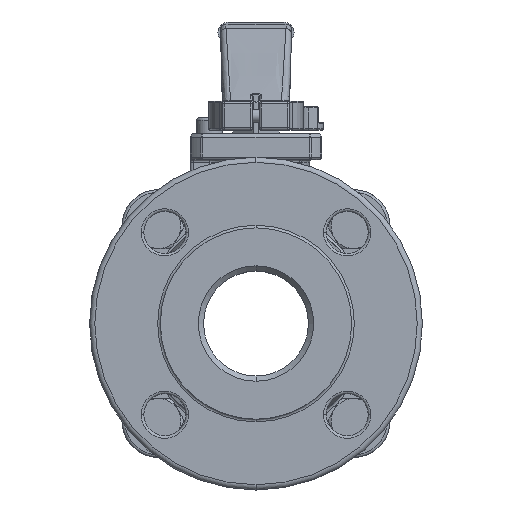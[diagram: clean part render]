
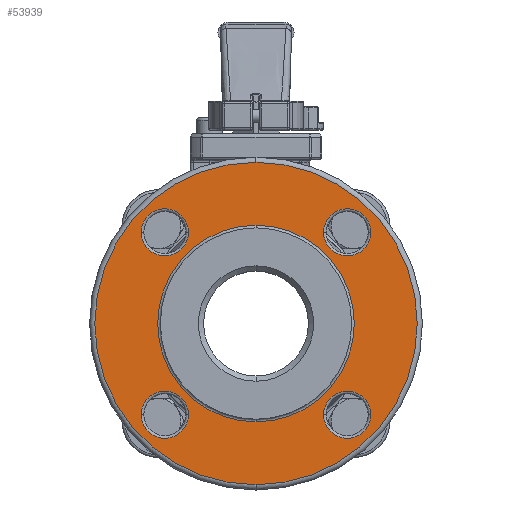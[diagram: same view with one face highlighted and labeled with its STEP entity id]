
A CAD part, left-side view. The second image highlights one B-rep face of the part: STEP entity #53939.
In plain terms, the highlighted planar face has unit normal (-1, 0, 0).
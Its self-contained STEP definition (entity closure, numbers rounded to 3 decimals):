
#665=CARTESIAN_POINT('',(-62.4,0.,0.));
#666=DIRECTION('',(-1.,0.,0.));
#667=DIRECTION('',(0.,0.,1.));
#668=AXIS2_PLACEMENT_3D('',#665,#666,#667);
#685=CARTESIAN_POINT('',(-62.4,0.,0.));
#686=DIRECTION('',(1.,0.,0.));
#687=DIRECTION('',(0.,0.,-1.));
#688=AXIS2_PLACEMENT_3D('',#685,#686,#687);
#708=CARTESIAN_POINT('',(-62.4,0.,0.));
#709=DIRECTION('',(1.,0.,0.));
#710=DIRECTION('',(0.,0.,1.));
#711=AXIS2_PLACEMENT_3D('',#708,#709,#710);
#42904=CARTESIAN_POINT('',(-62.4,34.79,34.79));
#42905=DIRECTION('',(1.,0.,0.));
#42906=DIRECTION('',(0.,1.,0.));
#42907=AXIS2_PLACEMENT_3D('',#42904,#42905,#42906);
#42919=CARTESIAN_POINT('',(-62.4,34.79,34.79));
#42920=DIRECTION('',(1.,0.,0.));
#42921=DIRECTION('',(0.,-1.,0.));
#42922=AXIS2_PLACEMENT_3D('',#42919,#42920,#42921);
#42972=CARTESIAN_POINT('',(-62.4,-34.79,34.79));
#42973=DIRECTION('',(1.,0.,0.));
#42974=DIRECTION('',(0.,-1.,0.));
#42975=AXIS2_PLACEMENT_3D('',#42972,#42973,#42974);
#42987=CARTESIAN_POINT('',(-62.4,-34.79,34.79));
#42988=DIRECTION('',(1.,0.,0.));
#42989=DIRECTION('',(0.,1.,0.));
#42990=AXIS2_PLACEMENT_3D('',#42987,#42988,#42989);
#43040=CARTESIAN_POINT('',(-62.4,-34.79,-34.79));
#43041=DIRECTION('',(1.,0.,0.));
#43042=DIRECTION('',(0.,1.,0.));
#43043=AXIS2_PLACEMENT_3D('',#43040,#43041,#43042);
#43055=CARTESIAN_POINT('',(-62.4,-34.79,-34.79));
#43056=DIRECTION('',(1.,0.,0.));
#43057=DIRECTION('',(0.,-1.,0.));
#43058=AXIS2_PLACEMENT_3D('',#43055,#43056,#43057);
#43108=CARTESIAN_POINT('',(-62.4,34.79,-34.79));
#43109=DIRECTION('',(1.,0.,0.));
#43110=DIRECTION('',(0.,-1.,0.));
#43111=AXIS2_PLACEMENT_3D('',#43108,#43109,#43110);
#43123=CARTESIAN_POINT('',(-62.4,34.79,-34.79));
#43124=DIRECTION('',(1.,0.,0.));
#43125=DIRECTION('',(0.,1.,0.));
#43126=AXIS2_PLACEMENT_3D('',#43123,#43124,#43125);
#43142=CARTESIAN_POINT('',(-62.4,0.,0.));
#43143=DIRECTION('',(-1.,0.,0.));
#43144=DIRECTION('',(0.,0.,-1.));
#43145=AXIS2_PLACEMENT_3D('',#43142,#43143,#43144);
#43183=CARTESIAN_POINT('',(-62.4,0.,-61.5));
#43184=CARTESIAN_POINT('',(-62.4,0.,61.5));
#43185=VERTEX_POINT('',#43183);
#43186=VERTEX_POINT('',#43184);
#44027=CARTESIAN_POINT('',(-62.4,43.79,34.79));
#44028=CARTESIAN_POINT('',(-62.4,25.79,34.79));
#44029=VERTEX_POINT('',#44027);
#44030=VERTEX_POINT('',#44028);
#44043=CARTESIAN_POINT('',(-62.4,-43.79,34.79));
#44044=CARTESIAN_POINT('',(-62.4,-25.79,34.79));
#44045=VERTEX_POINT('',#44043);
#44046=VERTEX_POINT('',#44044);
#44059=CARTESIAN_POINT('',(-62.4,-25.79,-34.79));
#44060=CARTESIAN_POINT('',(-62.4,-43.79,-34.79));
#44061=VERTEX_POINT('',#44059);
#44062=VERTEX_POINT('',#44060);
#44075=CARTESIAN_POINT('',(-62.4,43.79,-34.79));
#44076=CARTESIAN_POINT('',(-62.4,25.79,-34.79));
#44077=VERTEX_POINT('',#44075);
#44078=VERTEX_POINT('',#44076);
#44460=CARTESIAN_POINT('',(-62.4,0.,37.5));
#44461=CARTESIAN_POINT('',(-62.4,0.,-37.5));
#44462=VERTEX_POINT('',#44460);
#44463=VERTEX_POINT('',#44461);
#53899=CARTESIAN_POINT('',(-62.4,0.,0.));
#53900=DIRECTION('',(-1.,0.,0.));
#53901=DIRECTION('',(0.,0.,1.));
#53902=AXIS2_PLACEMENT_3D('',#53899,#53900,#53901);
#53903=PLANE('',#53902);
#53905=ORIENTED_EDGE('',*,*,#53904,.T.);
#53907=ORIENTED_EDGE('',*,*,#53906,.T.);
#53908=EDGE_LOOP('',(#53905,#53907));
#53909=FACE_OUTER_BOUND('',#53908,.F.);
#53910=ORIENTED_EDGE('',*,*,#53889,.T.);
#53912=ORIENTED_EDGE('',*,*,#53911,.T.);
#53913=EDGE_LOOP('',(#53910,#53912));
#53914=FACE_BOUND('',#53913,.F.);
#53916=ORIENTED_EDGE('',*,*,#53915,.F.);
#53918=ORIENTED_EDGE('',*,*,#53917,.F.);
#53919=EDGE_LOOP('',(#53916,#53918));
#53920=FACE_BOUND('',#53919,.F.);
#53922=ORIENTED_EDGE('',*,*,#53921,.F.);
#53924=ORIENTED_EDGE('',*,*,#53923,.F.);
#53925=EDGE_LOOP('',(#53922,#53924));
#53926=FACE_BOUND('',#53925,.F.);
#53928=ORIENTED_EDGE('',*,*,#53927,.F.);
#53930=ORIENTED_EDGE('',*,*,#53929,.F.);
#53931=EDGE_LOOP('',(#53928,#53930));
#53932=FACE_BOUND('',#53931,.F.);
#53934=ORIENTED_EDGE('',*,*,#53933,.F.);
#53936=ORIENTED_EDGE('',*,*,#53935,.F.);
#53937=EDGE_LOOP('',(#53934,#53936));
#53938=FACE_BOUND('',#53937,.F.);
#53939=ADVANCED_FACE('',(#53909,#53914,#53920,#53926,#53932,#53938),#53903,.T.);
#669=CIRCLE('',#668,37.5);
#689=CIRCLE('',#688,61.5);
#712=CIRCLE('',#711,61.5);
#42908=CIRCLE('',#42907,9.);
#42923=CIRCLE('',#42922,9.);
#42976=CIRCLE('',#42975,9.);
#42991=CIRCLE('',#42990,9.);
#43044=CIRCLE('',#43043,9.);
#43059=CIRCLE('',#43058,9.);
#43112=CIRCLE('',#43111,9.);
#43127=CIRCLE('',#43126,9.);
#43146=CIRCLE('',#43145,37.5);
#53889=EDGE_CURVE('',#44462,#44463,#669,.T.);
#53904=EDGE_CURVE('',#43185,#43186,#689,.T.);
#53906=EDGE_CURVE('',#43186,#43185,#712,.T.);
#53911=EDGE_CURVE('',#44463,#44462,#43146,.T.);
#53915=EDGE_CURVE('',#44029,#44030,#42908,.T.);
#53917=EDGE_CURVE('',#44030,#44029,#42923,.T.);
#53921=EDGE_CURVE('',#44045,#44046,#42976,.T.);
#53923=EDGE_CURVE('',#44046,#44045,#42991,.T.);
#53927=EDGE_CURVE('',#44061,#44062,#43044,.T.);
#53929=EDGE_CURVE('',#44062,#44061,#43059,.T.);
#53933=EDGE_CURVE('',#44077,#44078,#43127,.T.);
#53935=EDGE_CURVE('',#44078,#44077,#43112,.T.);
